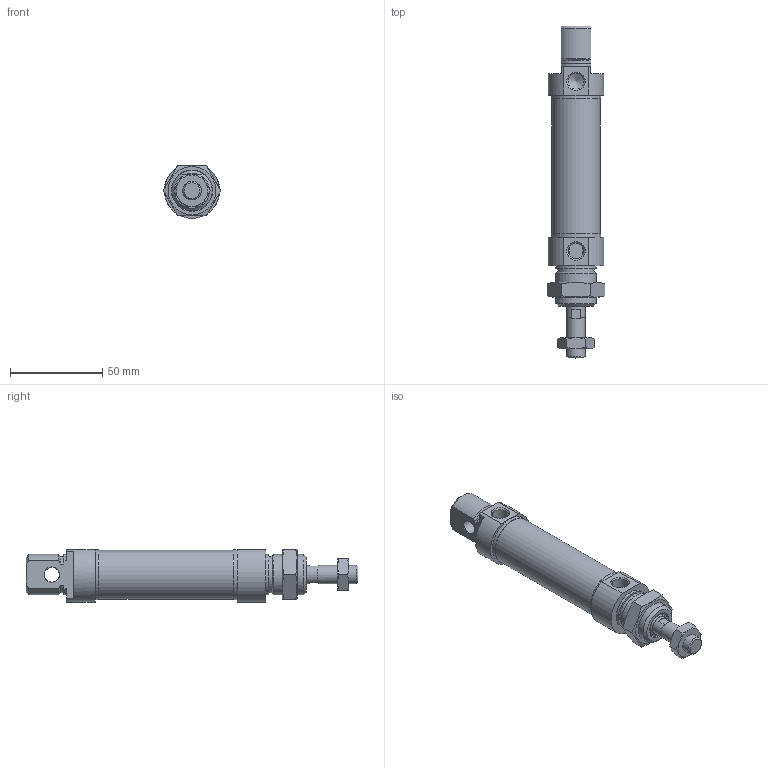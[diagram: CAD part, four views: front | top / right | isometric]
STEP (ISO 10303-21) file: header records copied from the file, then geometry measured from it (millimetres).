
FILE_DESCRIPTION(/* description */ ('Unknown'),/* implementation_level */ '2;1');
FILE_NAME(/* name */ 'RIM 25_40',/* time_stamp */ '2024-09-03T09:53:07+02:00',/* author */ ('Unknown'),/* organization */ ('Unknown'),/* preprocessor_version */ 'ST-DEVELOPER v16.7',/* originating_system */ 'Solid Edge',/* authorisation */ 'Unknown');
FILE_SCHEMA (('AUTOMOTIVE_DESIGN {1 0 10303 214 3 1 1}'));
Length unit declared in the file: millimetre
Products named in the file (7): RIM 25_40; Profilrohr; Kolbenstange; Kit_1; Kit_2; Mutter_1; Mutter_2
Assembly tree (6 placements, depth 2):
  RIM 25_40
    Profilrohr
    Kolbenstange
    Kit_1
    Kit_2
    Mutter_1
    Mutter_2
Bounding box: 31.18 x 180 x 28.45 mm (x, y, z)
Volume: 67294.2 mm3; surface area: 32480.8 mm2
Topology: 6 solids, 6 shells, 136 faces, 289 edges, 178 vertices
Faces by surface type: plane 55, cone 40, cylinder 34, torus 7
Full cylindrical faces by diameter (mm): 8 x1, 8.56 x1, 8.566 x2, 8.647 x1, 10 x2, 10.5 x1, 11.1 x1, 14 x1, 14.1 x1, 16.1 x1, 16.2 x1, 19.7 x1, 20.376 x1, 22 x2, 25 x2, 26.5 x1, 27 x2
Entity records: 4327 total; most frequent: CARTESIAN_POINT 639, DIRECTION 582, ORIENTED_EDGE 452, AXIS2_PLACEMENT_3D 259, EDGE_CURVE 226, FACE_BOUND 211, EDGE_LOOP 210, VERTEX_POINT 169
